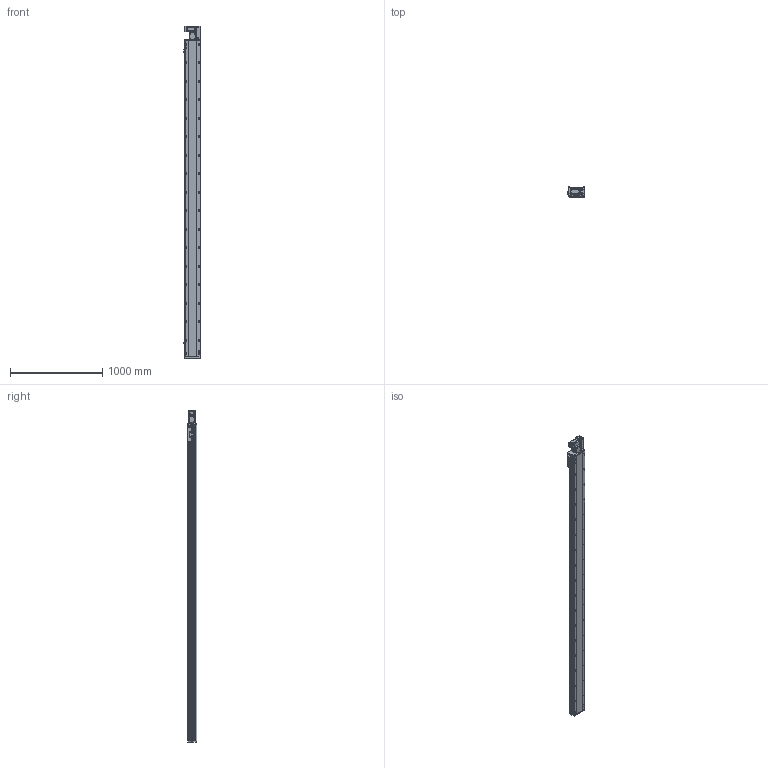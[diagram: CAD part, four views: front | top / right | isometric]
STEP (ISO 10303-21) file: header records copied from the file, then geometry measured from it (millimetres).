
FILE_DESCRIPTION (( 'STEP AP214' ), '1' );
FILE_NAME ('RTB17S-XX-3150-R-M40-C4.STEP', '2025-12-11T07:58:36', ( '' ), ( '' ), 'SwSTEP 2.0', 'SolidWorks 2018', '' );
FILE_SCHEMA (( 'AUTOMOTIVE_DESIGN' ));
Length unit declared in the file: millimetre
Products named in the file (14): OMRON EE-SX672 传感器^RTB17S-XX-XX-R-M40-C4; RTB17S-L-007奻裔^RTB17S-XX-XX-R-M40-C4; RTB14-L-017P^RTB17S-R-々湍釱蚾饜-400W_RTB17S-XX-XX-R-M40-C4; RTB17-R-011菁釱^RTB17S-XX-XX-R-M40-C4; RTB17S-XX-3150-R-M40-C4; RTB14-L-018P^RTB17S-R-々湍釱蚾饜-400W_RTB17S-XX-XX-R-M40-C4; RTB14-L-008-M20--萇儂啣^RTB17S-R-々湍釱蚾饜-400W_RTB17S-XX-XX-R-M40-C4; 400W侜督萇儂^RTB17S-XX-XX-R-M40-C4; RTB17S-L-014-T20--々湍釱^RTB17S-R-々湍釱蚾饜-400W_RTB17S-XX-XX-R-M40-C4; RTB17S-R-々湍釱蚾饜-400W^RTB17S-XX-XX-R-M40-C4; RTH13-BL-012覜茼え俋离^RTB17S-XX-XX-R-M40-C4; RTB17S-L-004佪裝蹟譫蟀諉釱^RTB17S-XX-XX-R-M40-C4; RTB17S-L-001耜醱啣^RTB17S-XX-XX-R-M40-C4; RTB14-L-005P--轴承塑胶压盖^RTB17S-R-皮带座装配-400W_RTB17S-XX-XX-R-M40-C4
Assembly tree (16 placements, depth 3):
  RTB17S-XX-3150-R-M40-C4
    RTB17-R-011菁釱^RTB17S-XX-XX-R-M40-C4
    RTB17S-L-007奻裔^RTB17S-XX-XX-R-M40-C4
    OMRON EE-SX672 传感器^RTB17S-XX-XX-R-M40-C4  x3
    RTB17S-L-001耜醱啣^RTB17S-XX-XX-R-M40-C4
    400W侜督萇儂^RTB17S-XX-XX-R-M40-C4
    RTB17S-L-004佪裝蹟譫蟀諉釱^RTB17S-XX-XX-R-M40-C4
    RTH13-BL-012覜茼え俋离^RTB17S-XX-XX-R-M40-C4
    RTB17S-R-々湍釱蚾饜-400W^RTB17S-XX-XX-R-M40-C4
      RTB17S-L-014-T20--々湍釱^RTB17S-R-々湍釱蚾饜-400W_RTB17S-XX-XX-R-M40-C4
      RTB14-L-005P--轴承塑胶压盖^RTB17S-R-皮带座装配-400W_RTB17S-XX-XX-R-M40-C4
      RTB14-L-008-M20--萇儂啣^RTB17S-R-々湍釱蚾饜-400W_RTB17S-XX-XX-R-M40-C4
      RTB14-L-017P^RTB17S-R-々湍釱蚾饜-400W_RTB17S-XX-XX-R-M40-C4  x2
      RTB14-L-018P^RTB17S-R-々湍釱蚾饜-400W_RTB17S-XX-XX-R-M40-C4
Bounding box: 183.5 x 108 x 3591 mm (x, y, z)
Volume: 29907410.5 mm3; surface area: 3410041.3 mm2
Topology: 15 solids, 15 shells, 2381 faces, 6681 edges, 4365 vertices
Faces by surface type: plane 1090, cylinder 843, bspline 301, cone 139, torus 8
Entity records: 71081 total; most frequent: CARTESIAN_POINT 20286, ORIENTED_EDGE 10206, DIRECTION 9386, EDGE_CURVE 5103, VERTEX_POINT 3353, AXIS2_PLACEMENT_3D 3283, VECTOR 2820, LINE 2820
